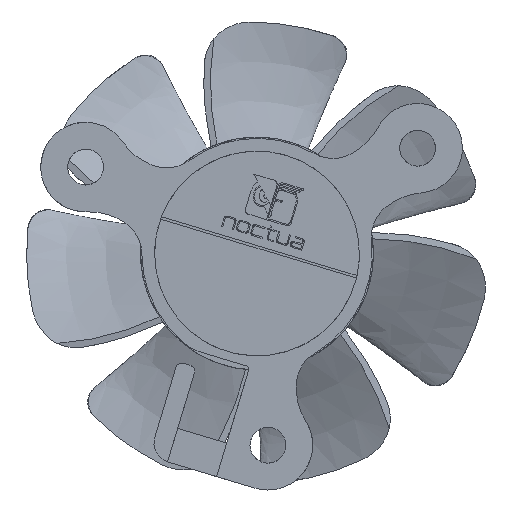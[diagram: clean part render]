
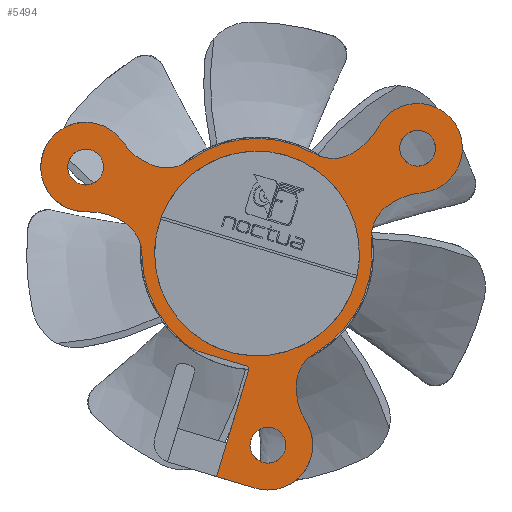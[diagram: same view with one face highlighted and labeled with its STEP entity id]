
A CAD part, front view. The second image highlights one B-rep face of the part: STEP entity #5494.
In plain terms, the highlighted planar face has unit normal (0, -1, 0).
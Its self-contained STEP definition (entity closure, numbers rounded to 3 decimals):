
#369=CIRCLE('',#6872,0.3);
#375=CIRCLE('',#6881,3.);
#385=CIRCLE('',#6897,3.);
#387=CIRCLE('',#6900,3.);
#389=CIRCLE('',#6903,3.);
#391=CIRCLE('',#6906,3.);
#393=CIRCLE('',#6909,3.);
#395=CIRCLE('',#6917,9.);
#397=CIRCLE('',#6920,9.);
#399=CIRCLE('',#6923,3.5);
#401=CIRCLE('',#6926,5.);
#403=CIRCLE('',#6929,5.);
#405=CIRCLE('',#6932,5.);
#407=CIRCLE('',#6935,5.);
#409=CIRCLE('',#6938,5.);
#411=CIRCLE('',#6941,9.);
#421=CIRCLE('',#6955,1.4);
#423=CIRCLE('',#6958,3.5);
#424=CIRCLE('',#6960,1.4);
#426=CIRCLE('',#6963,1.4);
#428=CIRCLE('',#6966,3.5);
#429=CIRCLE('',#6971,8.);
#861=ORIENTED_EDGE('',*,*,#2463,.T.);
#862=ORIENTED_EDGE('',*,*,#2452,.T.);
#863=ORIENTED_EDGE('',*,*,#2456,.T.);
#864=ORIENTED_EDGE('',*,*,#2446,.F.);
#865=ORIENTED_EDGE('',*,*,#2382,.T.);
#866=ORIENTED_EDGE('',*,*,#2434,.T.);
#867=ORIENTED_EDGE('',*,*,#2338,.T.);
#868=ORIENTED_EDGE('',*,*,#2360,.T.);
#869=ORIENTED_EDGE('',*,*,#2363,.T.);
#870=ORIENTED_EDGE('',*,*,#2349,.T.);
#871=ORIENTED_EDGE('',*,*,#2445,.T.);
#872=ORIENTED_EDGE('',*,*,#2342,.T.);
#873=ORIENTED_EDGE('',*,*,#2450,.T.);
#874=ORIENTED_EDGE('',*,*,#2427,.T.);
#875=ORIENTED_EDGE('',*,*,#2386,.T.);
#876=ORIENTED_EDGE('',*,*,#2413,.T.);
#877=ORIENTED_EDGE('',*,*,#2390,.T.);
#878=ORIENTED_EDGE('',*,*,#2430,.T.);
#879=ORIENTED_EDGE('',*,*,#2417,.T.);
#880=ORIENTED_EDGE('',*,*,#2432,.T.);
#881=ORIENTED_EDGE('',*,*,#2394,.T.);
#882=ORIENTED_EDGE('',*,*,#2415,.T.);
#883=ORIENTED_EDGE('',*,*,#2398,.T.);
#884=ORIENTED_EDGE('',*,*,#2422,.T.);
#885=ORIENTED_EDGE('',*,*,#2460,.T.);
#886=ORIENTED_EDGE('',*,*,#2424,.T.);
#2338=EDGE_CURVE('',#3189,#3190,#3763,.T.);
#2342=EDGE_CURVE('',#3193,#3194,#3767,.T.);
#2349=EDGE_CURVE('',#3201,#3199,#369,.T.);
#2360=EDGE_CURVE('',#3190,#3211,#375,.T.);
#2363=EDGE_CURVE('',#3211,#3201,#3780,.T.);
#2382=EDGE_CURVE('',#3230,#3229,#385,.T.);
#2386=EDGE_CURVE('',#3234,#3233,#387,.T.);
#2390=EDGE_CURVE('',#3238,#3237,#389,.T.);
#2394=EDGE_CURVE('',#3242,#3241,#391,.T.);
#2398=EDGE_CURVE('',#3246,#3245,#393,.T.);
#2413=EDGE_CURVE('',#3233,#3238,#395,.T.);
#2415=EDGE_CURVE('',#3241,#3246,#397,.T.);
#2417=EDGE_CURVE('',#3252,#3253,#399,.T.);
#2422=EDGE_CURVE('',#3245,#3257,#401,.T.);
#2424=EDGE_CURVE('',#3258,#3230,#403,.T.);
#2427=EDGE_CURVE('',#3260,#3234,#405,.T.);
#2430=EDGE_CURVE('',#3237,#3252,#407,.T.);
#2432=EDGE_CURVE('',#3253,#3242,#409,.T.);
#2434=EDGE_CURVE('',#3229,#3189,#411,.T.);
#2445=EDGE_CURVE('',#3199,#3193,#3818,.T.);
#2446=EDGE_CURVE('',#3265,#3265,#421,.T.);
#2450=EDGE_CURVE('',#3194,#3260,#423,.T.);
#2452=EDGE_CURVE('',#3269,#3269,#424,.T.);
#2456=EDGE_CURVE('',#3272,#3272,#426,.T.);
#2460=EDGE_CURVE('',#3257,#3258,#428,.T.);
#2463=EDGE_CURVE('',#3277,#3277,#429,.T.);
#3189=VERTEX_POINT('',#8541);
#3190=VERTEX_POINT('',#8542);
#3193=VERTEX_POINT('',#8550);
#3194=VERTEX_POINT('',#8551);
#3199=VERTEX_POINT('',#8563);
#3201=VERTEX_POINT('',#8566);
#3211=VERTEX_POINT('',#8590);
#3229=VERTEX_POINT('',#8635);
#3230=VERTEX_POINT('',#8637);
#3233=VERTEX_POINT('',#8644);
#3234=VERTEX_POINT('',#8646);
#3237=VERTEX_POINT('',#8653);
#3238=VERTEX_POINT('',#8655);
#3241=VERTEX_POINT('',#8662);
#3242=VERTEX_POINT('',#8664);
#3245=VERTEX_POINT('',#8671);
#3246=VERTEX_POINT('',#8673);
#3252=VERTEX_POINT('',#8706);
#3253=VERTEX_POINT('',#8707);
#3257=VERTEX_POINT('',#8716);
#3258=VERTEX_POINT('',#8721);
#3260=VERTEX_POINT('',#8727);
#3265=VERTEX_POINT('',#8758);
#3269=VERTEX_POINT('',#8770);
#3272=VERTEX_POINT('',#8778);
#3277=VERTEX_POINT('',#8795);
#3763=LINE('',#8540,#4200);
#3767=LINE('',#8549,#4204);
#3780=LINE('',#8595,#4217);
#3818=LINE('',#8755,#4255);
#4200=VECTOR('',#7283,1000.);
#4204=VECTOR('',#7289,1000.);
#4217=VECTOR('',#7328,1000.);
#4255=VECTOR('',#7506,1000.);
#4684=EDGE_LOOP('',(#861));
#4685=EDGE_LOOP('',(#862));
#4686=EDGE_LOOP('',(#863));
#4687=EDGE_LOOP('',(#864));
#4688=EDGE_LOOP('',(#865,#866,#867,#868,#869,#870,#871,#872,#873,#874,#875,
#876,#877,#878,#879,#880,#881,#882,#883,#884,#885,#886));
#5029=FACE_BOUND('',#4684,.T.);
#5030=FACE_BOUND('',#4685,.T.);
#5031=FACE_BOUND('',#4686,.T.);
#5032=FACE_BOUND('',#4687,.T.);
#5033=FACE_BOUND('',#4688,.T.);
#5338=PLANE('',#6970);
#5494=ADVANCED_FACE('',(#5029,#5030,#5031,#5032,#5033),#5338,.F.);
#6872=AXIS2_PLACEMENT_3D('',#8565,#7298,#7299);
#6881=AXIS2_PLACEMENT_3D('',#8589,#7321,#7322);
#6897=AXIS2_PLACEMENT_3D('',#8636,#7365,#7366);
#6900=AXIS2_PLACEMENT_3D('',#8645,#7373,#7374);
#6903=AXIS2_PLACEMENT_3D('',#8654,#7381,#7382);
#6906=AXIS2_PLACEMENT_3D('',#8663,#7389,#7390);
#6909=AXIS2_PLACEMENT_3D('',#8672,#7397,#7398);
#6917=AXIS2_PLACEMENT_3D('',#8699,#7426,#7427);
#6920=AXIS2_PLACEMENT_3D('',#8702,#7432,#7433);
#6923=AXIS2_PLACEMENT_3D('',#8705,#7438,#7439);
#6926=AXIS2_PLACEMENT_3D('',#8717,#7447,#7448);
#6929=AXIS2_PLACEMENT_3D('',#8720,#7453,#7454);
#6932=AXIS2_PLACEMENT_3D('',#8726,#7460,#7461);
#6935=AXIS2_PLACEMENT_3D('',#8732,#7467,#7468);
#6938=AXIS2_PLACEMENT_3D('',#8735,#7473,#7474);
#6941=AXIS2_PLACEMENT_3D('',#8738,#7479,#7480);
#6955=AXIS2_PLACEMENT_3D('',#8757,#7509,#7510);
#6958=AXIS2_PLACEMENT_3D('',#8765,#7517,#7518);
#6960=AXIS2_PLACEMENT_3D('',#8769,#7522,#7523);
#6963=AXIS2_PLACEMENT_3D('',#8777,#7530,#7531);
#6966=AXIS2_PLACEMENT_3D('',#8785,#7538,#7539);
#6970=AXIS2_PLACEMENT_3D('',#8793,#7548,#7549);
#6971=AXIS2_PLACEMENT_3D('',#8794,#7550,#7551);
#7283=DIRECTION('',(0.721,0.,-0.693));
#7289=DIRECTION('',(0.958,0.,-0.288));
#7298=DIRECTION('',(0.,1.,0.));
#7299=DIRECTION('',(0.721,0.,-0.693));
#7321=DIRECTION('',(0.,-1.,0.));
#7322=DIRECTION('',(0.721,0.,-0.693));
#7328=DIRECTION('',(0.958,0.,-0.288));
#7365=DIRECTION('',(0.,1.,0.));
#7366=DIRECTION('',(0.721,0.,-0.693));
#7373=DIRECTION('',(0.,1.,0.));
#7374=DIRECTION('',(0.721,0.,-0.693));
#7381=DIRECTION('',(0.,1.,0.));
#7382=DIRECTION('',(0.721,0.,-0.693));
#7389=DIRECTION('',(0.,1.,0.));
#7390=DIRECTION('',(0.721,0.,-0.693));
#7397=DIRECTION('',(0.,1.,0.));
#7398=DIRECTION('',(0.721,0.,-0.693));
#7426=DIRECTION('',(0.,-1.,0.));
#7427=DIRECTION('',(-0.721,0.,0.693));
#7432=DIRECTION('',(0.,-1.,0.));
#7433=DIRECTION('',(0.721,0.,-0.693));
#7438=DIRECTION('',(0.,-1.,0.));
#7439=DIRECTION('',(-0.693,0.,-0.721));
#7447=DIRECTION('',(0.,1.,0.));
#7448=DIRECTION('',(0.721,0.,-0.693));
#7453=DIRECTION('',(0.,1.,0.));
#7454=DIRECTION('',(0.721,0.,-0.693));
#7460=DIRECTION('',(0.,1.,0.));
#7461=DIRECTION('',(0.721,0.,-0.693));
#7467=DIRECTION('',(0.,1.,0.));
#7468=DIRECTION('',(0.721,0.,-0.693));
#7473=DIRECTION('',(0.,1.,0.));
#7474=DIRECTION('',(-0.721,0.,0.693));
#7479=DIRECTION('',(0.,-1.,0.));
#7480=DIRECTION('',(0.721,0.,-0.693));
#7506=DIRECTION('',(-0.288,0.,-0.958));
#7509=DIRECTION('',(0.,-1.,0.));
#7510=DIRECTION('',(0.721,0.,-0.693));
#7517=DIRECTION('',(0.,-1.,0.));
#7518=DIRECTION('',(-0.721,0.,0.693));
#7522=DIRECTION('',(0.,1.,0.));
#7523=DIRECTION('',(0.721,0.,-0.693));
#7530=DIRECTION('',(0.,1.,0.));
#7531=DIRECTION('',(0.721,0.,-0.693));
#7538=DIRECTION('',(0.,-1.,0.));
#7539=DIRECTION('',(0.721,0.,-0.693));
#7548=DIRECTION('',(0.,1.,0.));
#7549=DIRECTION('',(0.,0.,1.));
#7550=DIRECTION('',(0.,1.,0.));
#7551=DIRECTION('',(0.721,0.,-0.693));
#8540=CARTESIAN_POINT('',(-5.894,0.,-6.802));
#8541=CARTESIAN_POINT('',(-5.894,0.,-6.802));
#8542=CARTESIAN_POINT('',(-5.728,0.,-6.961));
#8549=CARTESIAN_POINT('',(-3.156,0.,-17.425));
#8550=CARTESIAN_POINT('',(-3.156,0.,-17.425));
#8551=CARTESIAN_POINT('',(-0.158,0.,-18.327));
#8563=CARTESIAN_POINT('',(-0.663,0.,-9.142));
#8565=CARTESIAN_POINT('',(-0.95,0.,-9.056));
#8566=CARTESIAN_POINT('',(-0.864,0.,-8.769));
#8589=CARTESIAN_POINT('',(-3.65,0.,-4.797));
#8590=CARTESIAN_POINT('',(-4.515,0.,-7.67));
#8595=CARTESIAN_POINT('',(-4.515,0.,-7.67));
#8635=CARTESIAN_POINT('',(-9.,0.,-0.056));
#8636=CARTESIAN_POINT('',(-12.,0.,-0.075));
#8637=CARTESIAN_POINT('',(-10.346,0.,2.428));
#8644=CARTESIAN_POINT('',(4.549,0.,-7.766));
#8645=CARTESIAN_POINT('',(6.065,0.,-10.355));
#8646=CARTESIAN_POINT('',(3.07,0.,-10.173));
#8653=CARTESIAN_POINT('',(10.004,0.,3.583));
#8654=CARTESIAN_POINT('',(11.931,0.,1.284));
#8655=CARTESIAN_POINT('',(8.948,0.,0.963));
#8662=CARTESIAN_POINT('',(4.451,0.,7.822));
#8663=CARTESIAN_POINT('',(5.935,0.,10.43));
#8664=CARTESIAN_POINT('',(7.275,0.,7.746));
#8671=CARTESIAN_POINT('',(-8.105,0.,6.872));
#8672=CARTESIAN_POINT('',(-7.077,0.,9.691));
#8673=CARTESIAN_POINT('',(-5.308,0.,7.268));
#8699=CARTESIAN_POINT('',(0.,0.,0.));
#8702=CARTESIAN_POINT('',(0.,0.,0.));
#8705=CARTESIAN_POINT('',(12.544,0.,8.224));
#8706=CARTESIAN_POINT('',(12.821,0.,4.735));
#8707=CARTESIAN_POINT('',(9.455,0.,9.869));
#8716=CARTESIAN_POINT('',(-10.511,0.,8.735));
#8717=CARTESIAN_POINT('',(-6.392,0.,11.57));
#8720=CARTESIAN_POINT('',(-13.103,0.,-1.744));
#8721=CARTESIAN_POINT('',(-13.274,0.,3.254));
#8726=CARTESIAN_POINT('',(8.061,0.,-10.475));
#8727=CARTESIAN_POINT('',(3.82,0.,-13.123));
#8732=CARTESIAN_POINT('',(13.216,0.,-0.249));
#8735=CARTESIAN_POINT('',(5.041,0.,12.219));
#8738=CARTESIAN_POINT('',(0.,0.,0.));
#8755=CARTESIAN_POINT('',(-0.663,0.,-9.142));
#8757=CARTESIAN_POINT('',(12.544,0.,8.224));
#8758=CARTESIAN_POINT('',(13.554,0.,7.255));
#8765=CARTESIAN_POINT('',(0.85,0.,-14.976));
#8769=CARTESIAN_POINT('',(0.85,0.,-14.976));
#8770=CARTESIAN_POINT('',(1.86,0.,-15.946));
#8777=CARTESIAN_POINT('',(-13.395,0.,6.751));
#8778=CARTESIAN_POINT('',(-12.385,0.,5.782));
#8785=CARTESIAN_POINT('',(-13.395,0.,6.751));
#8793=CARTESIAN_POINT('',(-12.,0.,-0.075));
#8794=CARTESIAN_POINT('',(0.,0.,0.));
#8795=CARTESIAN_POINT('',(5.77,0.,-5.541));
